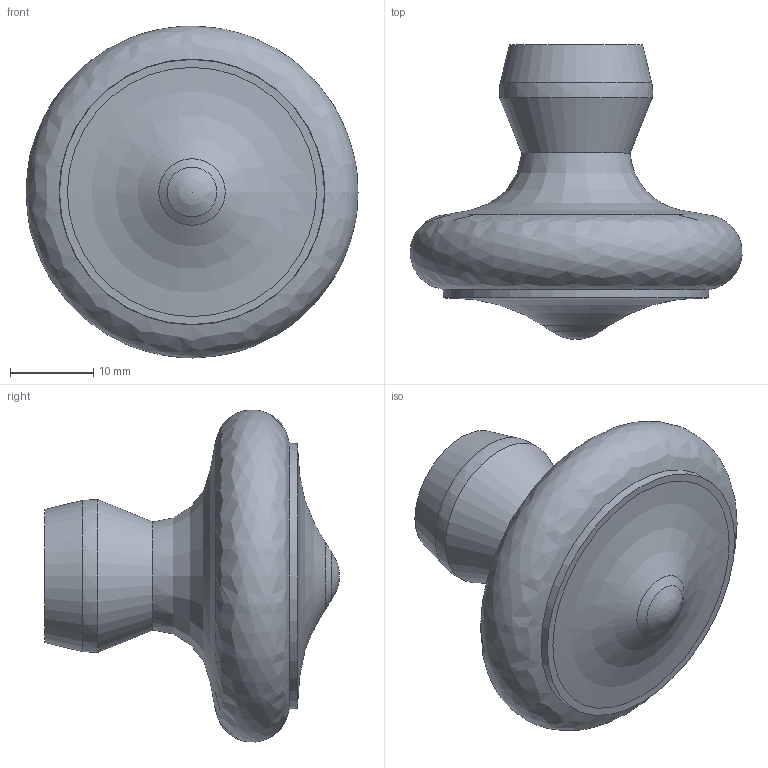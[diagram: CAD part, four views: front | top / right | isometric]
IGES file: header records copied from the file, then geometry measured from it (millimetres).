
Start section: Data from Parasolid IGES Translator 15.0.47, Copyright(c) 2006 Siemens P LM Software. All Rights Reserved.
Global section: file name: 9112646.igs; native system:  By UGS Corp.; preprocessor: XPlus GENERIC/IGES 3.0; author: Noname; organization: Noname; date: 20140122.100654; units: millimetre
Bounding box: 39.97 x 35.5 x 39.97 mm (x, y, z)
Surface area: 4390.4 mm2 (no closed solid volume)
Topology: 0 solids, 0 shells, 14 faces, 55 edges, 47 vertices
Faces by surface type: revolution 11, extrusion 3
